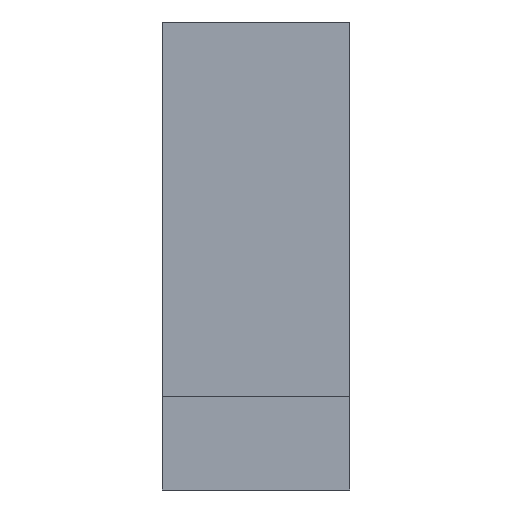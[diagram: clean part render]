
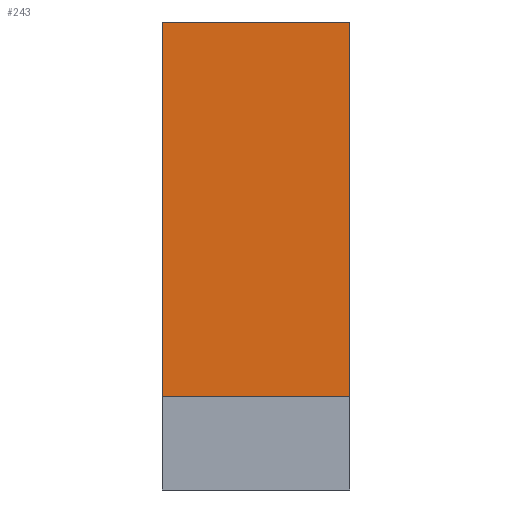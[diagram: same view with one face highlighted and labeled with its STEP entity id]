
A CAD part, left-side view. The second image highlights one B-rep face of the part: STEP entity #243.
In plain terms, the highlighted planar face has unit normal (-1, 0, 0).
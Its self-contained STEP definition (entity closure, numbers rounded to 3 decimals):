
#21 = EDGE_CURVE('',#22,#24,#26,.T.);
#22 = VERTEX_POINT('',#23);
#23 = CARTESIAN_POINT('',(0.,0.,26.));
#24 = VERTEX_POINT('',#25);
#25 = CARTESIAN_POINT('',(0.,50.,26.));
#26 = LINE('',#27,#28);
#27 = CARTESIAN_POINT('',(0.,0.,26.));
#28 = VECTOR('',#29,1.);
#29 = DIRECTION('',(0.,1.,0.));
#218 = VERTEX_POINT('',#219);
#219 = CARTESIAN_POINT('',(0.,50.,126.));
#225 = EDGE_CURVE('',#226,#218,#228,.T.);
#226 = VERTEX_POINT('',#227);
#227 = CARTESIAN_POINT('',(0.,0.,126.));
#228 = LINE('',#229,#230);
#229 = CARTESIAN_POINT('',(0.,0.,126.));
#230 = VECTOR('',#231,1.);
#231 = DIRECTION('',(0.,1.,0.));
#243 = ADVANCED_FACE('',(#244),#260,.T.);
#244 = FACE_BOUND('',#245,.T.);
#245 = EDGE_LOOP('',(#246,#247,#253,#254));
#246 = ORIENTED_EDGE('',*,*,#225,.T.);
#247 = ORIENTED_EDGE('',*,*,#248,.T.);
#248 = EDGE_CURVE('',#218,#24,#249,.T.);
#249 = LINE('',#250,#251);
#250 = CARTESIAN_POINT('',(0.,50.,126.));
#251 = VECTOR('',#252,1.);
#252 = DIRECTION('',(0.,0.,-1.));
#253 = ORIENTED_EDGE('',*,*,#21,.F.);
#254 = ORIENTED_EDGE('',*,*,#255,.F.);
#255 = EDGE_CURVE('',#226,#22,#256,.T.);
#256 = LINE('',#257,#258);
#257 = CARTESIAN_POINT('',(0.,0.,126.));
#258 = VECTOR('',#259,1.);
#259 = DIRECTION('',(0.,0.,-1.));
#260 = PLANE('',#261);
#261 = AXIS2_PLACEMENT_3D('',#262,#263,#264);
#262 = CARTESIAN_POINT('',(0.,0.,126.));
#263 = DIRECTION('',(-1.,0.,0.));
#264 = DIRECTION('',(0.,0.,-1.));
